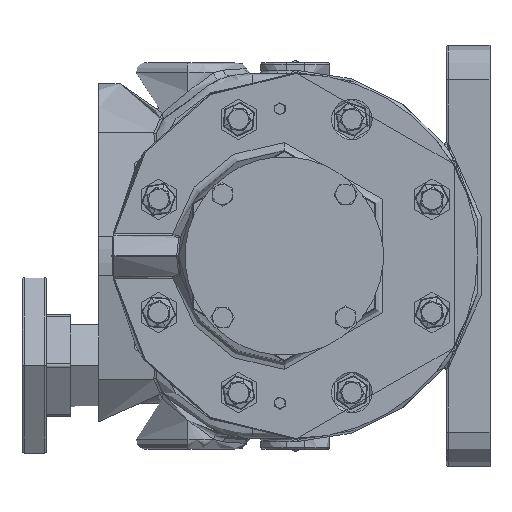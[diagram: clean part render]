
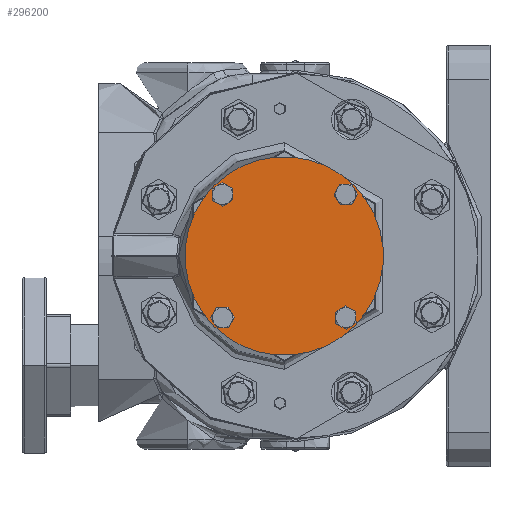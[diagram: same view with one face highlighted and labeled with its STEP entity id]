
A CAD part, left-side view. The second image highlights one B-rep face of the part: STEP entity #296200.
In plain terms, the highlighted planar face has unit normal (-1, 0, 0).
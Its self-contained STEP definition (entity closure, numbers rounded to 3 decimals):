
#3904 = CARTESIAN_POINT ( 'NONE',  ( -126.605, 35.916, 30.406 ) ) ;
#10585 = ORIENTED_EDGE ( 'NONE', *, *, #170610, .F. ) ;
#17926 = AXIS2_PLACEMENT_3D ( 'NONE', #222111, #220575, #325670 ) ;
#19103 = CIRCLE ( 'NONE', #455604, 3.5 ) ;
#22563 = EDGE_CURVE ( 'NONE', #432139, #348928, #79212, .T. ) ;
#25623 = DIRECTION ( 'NONE',  ( 0., 0.707, -0.707 ) ) ;
#36698 = VERTEX_POINT ( 'NONE', #268792 ) ;
#42992 = CIRCLE ( 'NONE', #222379, 3.5 ) ;
#46646 = DIRECTION ( 'NONE',  ( -1., 0., 0. ) ) ;
#55382 = EDGE_LOOP ( 'NONE', ( #113774, #139525 ) ) ;
#71188 = CARTESIAN_POINT ( 'NONE',  ( -126.605, -24.896, -30.406 ) ) ;
#79212 = CIRCLE ( 'NONE', #124468, 49. ) ;
#88559 = ORIENTED_EDGE ( 'NONE', *, *, #190966, .F. ) ;
#88954 = FACE_BOUND ( 'NONE', #55382, .T. ) ;
#89073 = PLANE ( 'NONE',  #219736 ) ;
#94784 = EDGE_CURVE ( 'NONE', #158969, #36698, #304644, .T. ) ;
#95857 = CARTESIAN_POINT ( 'NONE',  ( -126.605, 35.916, -30.406 ) ) ;
#100416 = AXIS2_PLACEMENT_3D ( 'NONE', #393599, #392061, #150679 ) ;
#107129 = DIRECTION ( 'NONE',  ( 0., 0.707, -0.707 ) ) ;
#110536 = VERTEX_POINT ( 'NONE', #158333 ) ;
#113774 = ORIENTED_EDGE ( 'NONE', *, *, #349372, .F. ) ;
#116036 = EDGE_LOOP ( 'NONE', ( #326357, #335614 ) ) ;
#122227 = FACE_OUTER_BOUND ( 'NONE', #116036, .T. ) ;
#124468 = AXIS2_PLACEMENT_3D ( 'NONE', #199104, #407893, #192975 ) ;
#127986 = FACE_BOUND ( 'NONE', #202737, .T. ) ;
#138865 = DIRECTION ( 'NONE',  ( -1., 0., 0. ) ) ;
#139510 = VERTEX_POINT ( 'NONE', #144147 ) ;
#139525 = ORIENTED_EDGE ( 'NONE', *, *, #178388, .F. ) ;
#144147 = CARTESIAN_POINT ( 'NONE',  ( -126.605, 33.441, -27.931 ) ) ;
#150679 = DIRECTION ( 'NONE',  ( 0., 0.707, -0.707 ) ) ;
#158247 = EDGE_LOOP ( 'NONE', ( #449024, #88559 ) ) ;
#158333 = CARTESIAN_POINT ( 'NONE',  ( -126.605, 38.39, -32.88 ) ) ;
#158969 = VERTEX_POINT ( 'NONE', #258836 ) ;
#162068 = EDGE_CURVE ( 'NONE', #348928, #432139, #178031, .T. ) ;
#170610 = EDGE_CURVE ( 'NONE', #110536, #139510, #19103, .T. ) ;
#171692 = CARTESIAN_POINT ( 'NONE',  ( -126.605, 5.51, 0. ) ) ;
#172572 = VERTEX_POINT ( 'NONE', #457530 ) ;
#174093 = DIRECTION ( 'NONE',  ( -1., 0., 0. ) ) ;
#175746 = AXIS2_PLACEMENT_3D ( 'NONE', #3904, #217435, #429259 ) ;
#176056 = CARTESIAN_POINT ( 'NONE',  ( -126.605, 38.39, 27.931 ) ) ;
#178031 = CIRCLE ( 'NONE', #182288, 49. ) ;
#178388 = EDGE_CURVE ( 'NONE', #457377, #172572, #186643, .T. ) ;
#180789 = CIRCLE ( 'NONE', #175746, 3.5 ) ;
#182288 = AXIS2_PLACEMENT_3D ( 'NONE', #171692, #311052, #385155 ) ;
#186643 = CIRCLE ( 'NONE', #239523, 3.5 ) ;
#187435 = CARTESIAN_POINT ( 'NONE',  ( -126.605, 35.916, 30.406 ) ) ;
#188048 = ORIENTED_EDGE ( 'NONE', *, *, #342781, .F. ) ;
#190966 = EDGE_CURVE ( 'NONE', #391389, #452373, #180789, .T. ) ;
#192975 = DIRECTION ( 'NONE',  ( 0., 0.707, -0.707 ) ) ;
#194784 = ORIENTED_EDGE ( 'NONE', *, *, #94784, .F. ) ;
#197103 = EDGE_LOOP ( 'NONE', ( #10585, #246571 ) ) ;
#199104 = CARTESIAN_POINT ( 'NONE',  ( -126.605, 5.51, 0. ) ) ;
#200838 = DIRECTION ( 'NONE',  ( -1., 0., 0. ) ) ;
#202737 = EDGE_LOOP ( 'NONE', ( #194784, #188048 ) ) ;
#217435 = DIRECTION ( 'NONE',  ( -1., 0., 0. ) ) ;
#219736 = AXIS2_PLACEMENT_3D ( 'NONE', #387536, #174093, #25623 ) ;
#220575 = DIRECTION ( 'NONE',  ( -1., 0., 0. ) ) ;
#221447 = CARTESIAN_POINT ( 'NONE',  ( -126.605, 33.441, 32.88 ) ) ;
#222111 = CARTESIAN_POINT ( 'NONE',  ( -126.605, -24.896, 30.406 ) ) ;
#222379 = AXIS2_PLACEMENT_3D ( 'NONE', #95857, #343391, #377451 ) ;
#239523 = AXIS2_PLACEMENT_3D ( 'NONE', #71188, #200838, #279624 ) ;
#246571 = ORIENTED_EDGE ( 'NONE', *, *, #453414, .F. ) ;
#254985 = CIRCLE ( 'NONE', #17926, 3.5 ) ;
#258836 = CARTESIAN_POINT ( 'NONE',  ( -126.605, -22.421, 27.931 ) ) ;
#268792 = CARTESIAN_POINT ( 'NONE',  ( -126.605, -27.37, 32.88 ) ) ;
#270649 = CIRCLE ( 'NONE', #375073, 3.5 ) ;
#279624 = DIRECTION ( 'NONE',  ( 0., 0.707, -0.707 ) ) ;
#279775 = CARTESIAN_POINT ( 'NONE',  ( -126.605, 35.916, -30.406 ) ) ;
#296200 = ADVANCED_FACE ( 'NONE', ( #382370, #371358, #127986, #88954, #122227 ), #89073, .T. ) ;
#304644 = CIRCLE ( 'NONE', #425206, 3.5 ) ;
#308635 = CARTESIAN_POINT ( 'NONE',  ( -126.605, -27.37, -27.931 ) ) ;
#311052 = DIRECTION ( 'NONE',  ( -1., 0., 0. ) ) ;
#318527 = CIRCLE ( 'NONE', #100416, 3.5 ) ;
#319127 = DIRECTION ( 'NONE',  ( -1., 0., 0. ) ) ;
#325670 = DIRECTION ( 'NONE',  ( 0., 0.707, -0.707 ) ) ;
#326357 = ORIENTED_EDGE ( 'NONE', *, *, #22563, .T. ) ;
#335614 = ORIENTED_EDGE ( 'NONE', *, *, #162068, .T. ) ;
#342781 = EDGE_CURVE ( 'NONE', #36698, #158969, #254985, .T. ) ;
#343391 = DIRECTION ( 'NONE',  ( -1., 0., 0. ) ) ;
#348928 = VERTEX_POINT ( 'NONE', #438859 ) ;
#349372 = EDGE_CURVE ( 'NONE', #172572, #457377, #318527, .T. ) ;
#351668 = CARTESIAN_POINT ( 'NONE',  ( -126.605, -24.896, 30.406 ) ) ;
#371358 = FACE_BOUND ( 'NONE', #158247, .T. ) ;
#375073 = AXIS2_PLACEMENT_3D ( 'NONE', #187435, #46646, #439482 ) ;
#377451 = DIRECTION ( 'NONE',  ( 0., 0.707, -0.707 ) ) ;
#382370 = FACE_BOUND ( 'NONE', #197103, .T. ) ;
#385155 = DIRECTION ( 'NONE',  ( 0., 0.707, -0.707 ) ) ;
#387536 = CARTESIAN_POINT ( 'NONE',  ( -126.605, -31.613, -37.123 ) ) ;
#391389 = VERTEX_POINT ( 'NONE', #221447 ) ;
#392061 = DIRECTION ( 'NONE',  ( -1., 0., 0. ) ) ;
#393599 = CARTESIAN_POINT ( 'NONE',  ( -126.605, -24.896, -30.406 ) ) ;
#407893 = DIRECTION ( 'NONE',  ( -1., 0., 0. ) ) ;
#421480 = EDGE_CURVE ( 'NONE', #452373, #391389, #270649, .T. ) ;
#425206 = AXIS2_PLACEMENT_3D ( 'NONE', #351668, #319127, #107129 ) ;
#429259 = DIRECTION ( 'NONE',  ( 0., 0.707, -0.707 ) ) ;
#430802 = CARTESIAN_POINT ( 'NONE',  ( -126.605, -29.138, 34.648 ) ) ;
#432139 = VERTEX_POINT ( 'NONE', #430802 ) ;
#438859 = CARTESIAN_POINT ( 'NONE',  ( -126.605, 40.158, -34.648 ) ) ;
#439482 = DIRECTION ( 'NONE',  ( 0., 0.707, -0.707 ) ) ;
#449024 = ORIENTED_EDGE ( 'NONE', *, *, #421480, .F. ) ;
#452373 = VERTEX_POINT ( 'NONE', #176056 ) ;
#453414 = EDGE_CURVE ( 'NONE', #139510, #110536, #42992, .T. ) ;
#455604 = AXIS2_PLACEMENT_3D ( 'NONE', #279775, #138865, #457602 ) ;
#457377 = VERTEX_POINT ( 'NONE', #308635 ) ;
#457530 = CARTESIAN_POINT ( 'NONE',  ( -126.605, -22.421, -32.88 ) ) ;
#457602 = DIRECTION ( 'NONE',  ( 0., 0.707, -0.707 ) ) ;
